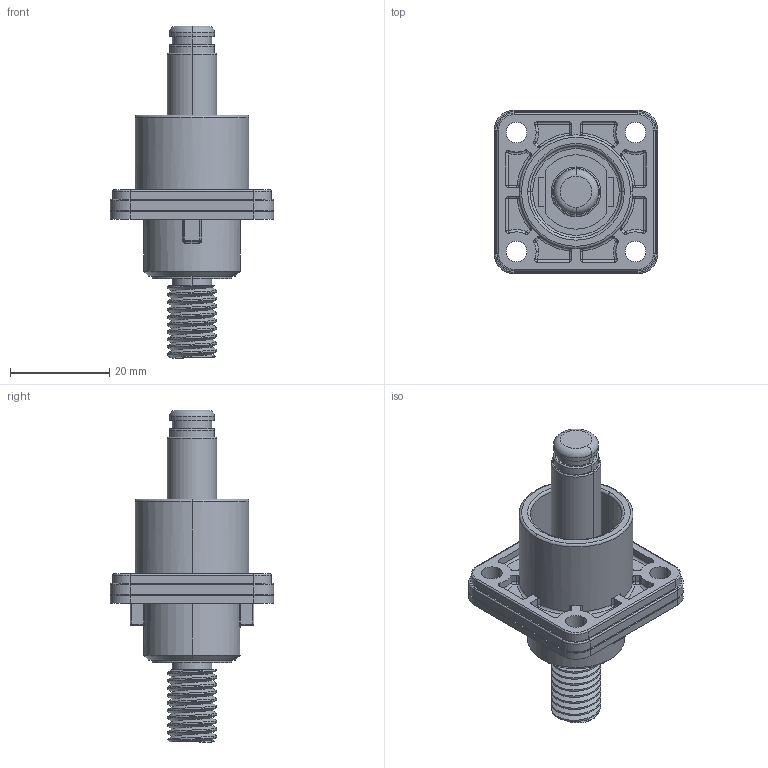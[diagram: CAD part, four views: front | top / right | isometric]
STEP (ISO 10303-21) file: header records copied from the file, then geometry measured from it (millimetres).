
FILE_DESCRIPTION (( 'STEP AP203' ), '1' );
FILE_NAME ('RL9100-10X-F1.STEP', '2015-04-30T06:55:54', ( 'gasf' ), ( '' ), 'SwSTEP 2.0', 'SolidWorks 2012', '' );
FILE_SCHEMA (( 'CONFIG_CONTROL_DESIGN' ));
Length unit declared in the file: millimetre
Products named in the file (1): RL9100-10X-F1
Bounding box: 33 x 33 x 67 mm (x, y, z)
Volume: 14865.3 mm3; surface area: 9439.5 mm2
Topology: 2 solids, 2 shells, 388 faces, 950 edges, 542 vertices
Faces by surface type: cylinder 188, plane 85, torus 51, sphere 49, bspline 10, cone 5
Entity records: 12373 total; most frequent: CARTESIAN_POINT 3305, DIRECTION 2060, ORIENTED_EDGE 1808, EDGE_CURVE 904, AXIS2_PLACEMENT_3D 841, VERTEX_POINT 531, CIRCLE 462, EDGE_LOOP 417
